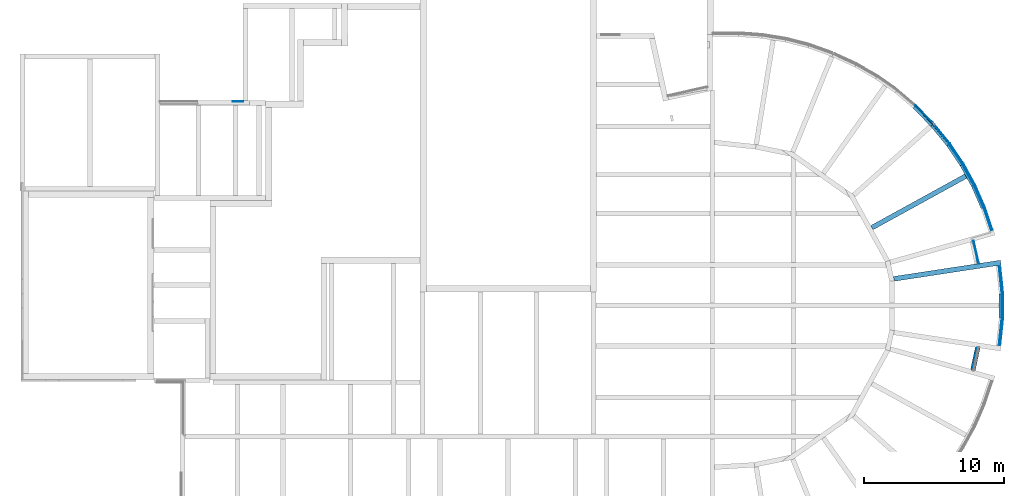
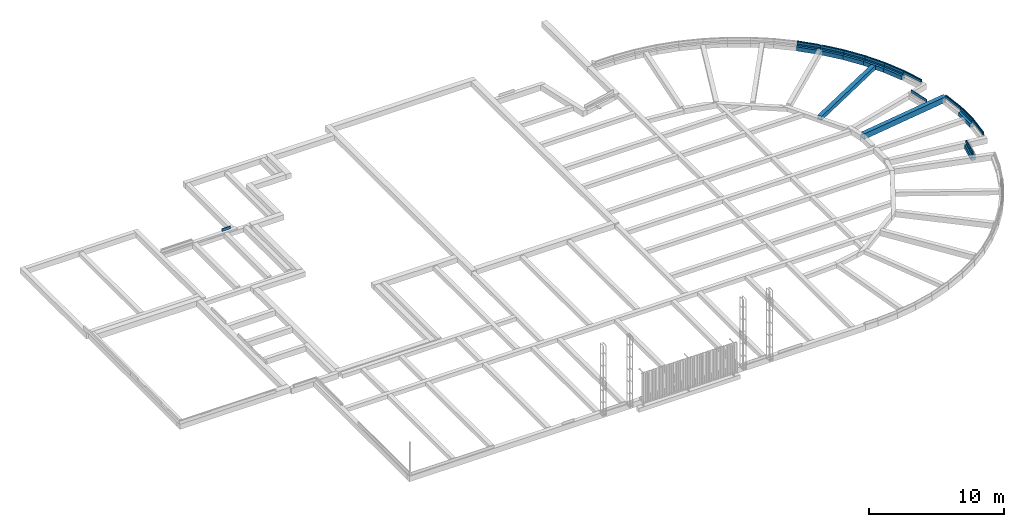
# One storey, part 7 of 11: 30 walls.
"""IFC2X3 building model written with IfcOpenShell, lengths in millimetres."""

from ifc_helpers import new_model, entity, si_unit, converted_unit, derived_unit, direction, frame, frame_2d, origin, place, context, subcontext, project, spatial, polyline, rectangle, outline, extrude, clip, bounded_halfspace, material, layer, layer_set, layer_usage, type_object, element, save


model = new_model("IFC2X3")

# Units and contexts
model_context = context("Model", 3, precision=0.01, world=origin(), true_north=direction((6.12303176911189e-17, 1.0)))
body_context = subcontext(model_context, "Body", "Model", "MODEL_VIEW")
ifc_project = project(units=[si_unit("LENGTHUNIT", "METRE", prefix="MILLI"), si_unit("AREAUNIT", "SQUARE_METRE"), si_unit("VOLUMEUNIT", "CUBIC_METRE"), converted_unit("PLANEANGLEUNIT", "DEGREE", entity("IfcRatioMeasure", 0.0174532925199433), si_unit("PLANEANGLEUNIT", "RADIAN"), dimensions=[0, 0, 0, 0, 0, 0, 0]), si_unit("MASSUNIT", "GRAM", prefix="KILO"), derived_unit("MASSDENSITYUNIT", [(si_unit("MASSUNIT", "GRAM", prefix="KILO"), 1), (si_unit("LENGTHUNIT", "METRE"), -3)]), derived_unit("MOMENTOFINERTIAUNIT", [(si_unit("LENGTHUNIT", "METRE"), 4)]), si_unit("TIMEUNIT", "SECOND"), si_unit("FREQUENCYUNIT", "HERTZ"), si_unit("THERMODYNAMICTEMPERATUREUNIT", "DEGREE_CELSIUS"), derived_unit("THERMALTRANSMITTANCEUNIT", [(si_unit("MASSUNIT", "GRAM", prefix="KILO"), 1), (si_unit("THERMODYNAMICTEMPERATUREUNIT", "KELVIN"), -1), (si_unit("TIMEUNIT", "SECOND"), -3)]), derived_unit("VOLUMETRICFLOWRATEUNIT", [(si_unit("LENGTHUNIT", "METRE"), 3), (si_unit("TIMEUNIT", "SECOND"), -1)]), si_unit("ELECTRICCURRENTUNIT", "AMPERE"), si_unit("ELECTRICVOLTAGEUNIT", "VOLT"), si_unit("POWERUNIT", "WATT"), si_unit("FORCEUNIT", "NEWTON", prefix="KILO"), si_unit("ILLUMINANCEUNIT", "LUX"), si_unit("LUMINOUSFLUXUNIT", "LUMEN"), si_unit("LUMINOUSINTENSITYUNIT", "CANDELA"), derived_unit("USERDEFINED", [(si_unit("MASSUNIT", "GRAM", prefix="KILO"), -1), (si_unit("LENGTHUNIT", "METRE"), -2), (si_unit("TIMEUNIT", "SECOND"), 3), (si_unit("LUMINOUSFLUXUNIT", "LUMEN"), 1)]), derived_unit("LINEARVELOCITYUNIT", [(si_unit("LENGTHUNIT", "METRE"), 1), (si_unit("TIMEUNIT", "SECOND"), -1)]), si_unit("PRESSUREUNIT", "PASCAL"), derived_unit("USERDEFINED", [(si_unit("LENGTHUNIT", "METRE"), -2), (si_unit("MASSUNIT", "GRAM", prefix="KILO"), 1), (si_unit("TIMEUNIT", "SECOND"), -2)]), derived_unit("LINEARFORCEUNIT", [(si_unit("MASSUNIT", "GRAM", prefix="KILO"), 1), (si_unit("LENGTHUNIT", "METRE"), 1), (si_unit("TIMEUNIT", "SECOND"), -2), (si_unit("LENGTHUNIT", "METRE"), -1)]), derived_unit("PLANARFORCEUNIT", [(si_unit("MASSUNIT", "GRAM", prefix="KILO"), 1), (si_unit("LENGTHUNIT", "METRE"), 1), (si_unit("TIMEUNIT", "SECOND"), -2), (si_unit("LENGTHUNIT", "METRE"), -2)])], contexts=[model_context])

# Site, building, storey
site_placement = place(None, origin())
site = spatial("IfcSite", under=ifc_project, at=site_placement, Name="Default", CompositionType="ELEMENT")
building_placement = place(site_placement, origin())
building = spatial("IfcBuilding", under=site, at=building_placement, Name="-", CompositionType="ELEMENT")
storey_placement = place(building_placement, frame((0.0, 0.0, -780.0)))
storey = spatial("IfcBuildingStorey", under=building, at=storey_placement, Name="ok. fundering", CompositionType="ELEMENT", Elevation=-780.0)

# Walls
ifc_material_1 = material(Name="NLRS_g2_baksteen  rood genuanceerd Klamp")
ifc_layer_1 = layer(ifc_material_1, 50.0)
ifc_layer_set_1 = layer_set([ifc_layer_1], Name="Basic Wall:NLRS_20_WA_Metselwerk klamp, Eems wf-p-0081-25")
ifc_layer_usage_1 = layer_usage(ifc_layer_set_1, "AXIS2", "NEGATIVE", 25.0)
wall_type_1 = type_object("IfcWallType", Name="Basic Wall:NLRS_20_WA_Metselwerk klamp, Eems wf-p-0081-25", PredefinedType="STANDARD", material=ifc_layer_set_1)
wall_1_placement = place(storey_placement, frame((69965.3788069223, 16790.7732787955, 500.0), z_axis=(0.0, 0.0, 1.0), x_axis=(0.104528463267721, 0.994521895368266, 0.0)))
element("IfcWallStandardCase", 1, at=wall_1_placement, inside=storey, type_object=wall_type_1, material=ifc_layer_usage_1, Name="Basic Wall:NLRS_20_WA_Metselwerk klamp, Eems wf-p-0081-25", ObjectType="Basic Wall:NLRS_20_WA_Metselwerk klamp, Eems wf-p-0081-25", context=body_context, shape_type="Clipping", body=[
    clip(clip(extrude(outline(polyline([(0.0, 25.0), (0.0, 4.90619364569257), (44.9614550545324, 2.8539697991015), (43.6900864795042, -25.0), (1979.74689828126, -25.0), (1977.1265093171, 25.0), (0.0, 25.0)])), origin(), (0.0, 0.0, 1.0), 240.0), bounded_halfspace(frame((44.9614550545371, 2.85396979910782, 0.0), z_axis=(0.0455965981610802, 0.998959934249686, 0.0), x_axis=(-0.998959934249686, 0.0455965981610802, 0.0)), True, frame((44.9614550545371, 2.85396979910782, 0.0), z_axis=(0.0455965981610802, 0.998959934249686, 0.0), x_axis=(-0.998959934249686, 0.0455965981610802, 0.0)), polyline([(0.0, 0.0), (45.0082666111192, 0.0), (45.0082666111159, 240.0), (0.0, 240.0), (0.0, 0.0)]))), bounded_halfspace(frame((44.9614550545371, 2.85396979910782, 240.0), z_axis=(0.998959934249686, -0.0455965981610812, 0.0), x_axis=(0.0455965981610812, 0.998959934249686, 0.0)), True, frame((44.9614550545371, 2.85396979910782, 240.0), z_axis=(0.998959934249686, -0.0455965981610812, 0.0), x_axis=(0.0455965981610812, 0.998959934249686, 0.0)), polyline([(0.0, 0.0), (-27.8829699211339, 0.0), (-27.8829699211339, -240.0), (0.0, -240.0), (0.0, 0.0)]))),
])
ifc_layer_usage_2 = layer_usage(ifc_layer_set_1, "AXIS2", "NEGATIVE", 25.0)
wall_2_placement = place(storey_placement, frame((70172.1817552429, 18757.0617048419, 500.0), z_axis=(0.0, 0.0, 1.0), x_axis=(0.0, 1.0, 0.0)))
element("IfcWallStandardCase", 2, at=wall_2_placement, inside=storey, type_object=wall_type_1, material=ifc_layer_usage_2, Name="Basic Wall:NLRS_20_WA_Metselwerk klamp, Eems wf-p-0081-25", ObjectType="Basic Wall:NLRS_20_WA_Metselwerk klamp, Eems wf-p-0081-25", context=body_context, shape_type="SweptSolid", body=[
    extrude(outline(polyline([(1717.99604824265, -25.0), (1715.3756592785, 25.0), (2.62038896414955, 25.0), (0.0, -25.0), (1717.99604824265, -25.0)])), origin(), (0.0, 0.0, 1.0), 239.99999999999),
])
ifc_layer_usage_3 = layer_usage(ifc_layer_set_1, "AXIS2", "NEGATIVE", 25.0)
wall_3_placement = place(storey_placement, frame((70172.3187078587, 20472.4445415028, 500.0), z_axis=(0.0, 0.0, 1.0), x_axis=(-0.104528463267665, 0.994521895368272, 0.0)))
element("IfcWallStandardCase", 3, at=wall_3_placement, inside=storey, type_object=wall_type_1, material=ifc_layer_usage_3, Name="Basic Wall:NLRS_20_WA_Metselwerk klamp, Eems wf-p-0081-25", ObjectType="Basic Wall:NLRS_20_WA_Metselwerk klamp, Eems wf-p-0081-25", context=body_context, shape_type="Clipping", body=[
    clip(clip(extrude(outline(polyline([(2.62038896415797, 25.0), (0.0, -25.0), (1941.66335280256, -25.0), (1940.36080874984, 3.03501851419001), (1980.56164081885, 4.90280236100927), (1980.56164081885, 25.0), (2.62038896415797, 25.0)])), origin(), (0.0, 0.0, 1.0), 240.0), bounded_halfspace(frame((1940.36080874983, 3.03501851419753, 240.0), z_axis=(-0.0464112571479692, 0.998922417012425, 0.0), x_axis=(-0.998922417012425, -0.0464112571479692, 0.0)), True, frame((1940.36080874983, 3.03501851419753, 240.0), z_axis=(-0.0464112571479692, 0.998922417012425, 0.0), x_axis=(-0.998922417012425, -0.0464112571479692, 0.0)), polyline([(0.0, 0.0), (-40.2441985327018, 0.0), (-40.2441985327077, -240.0), (0.0, -240.0), (0.0, 0.0)]))), bounded_halfspace(frame((1940.36080874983, 3.03501851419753, 0.0), z_axis=(-0.998922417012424, -0.0464112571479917, 0.0), x_axis=(0.0464112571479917, -0.998922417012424, 0.0)), True, frame((1940.36080874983, 3.03501851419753, 0.0), z_axis=(-0.998922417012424, -0.0464112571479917, 0.0), x_axis=(0.0464112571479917, -0.998922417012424, 0.0)), polyline([(0.0, 0.0), (28.0652611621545, 0.0), (28.0652611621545, 240.0), (0.0, 240.0), (0.0, 0.0)]))),
])
ifc_layer_usage_4 = layer_usage(ifc_layer_set_1, "AXIS2", "NEGATIVE", 25.0)
wall_4_placement = place(storey_placement, frame((69403.4225875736, 25042.725923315, 500.0), z_axis=(0.0, 0.0, 1.0), x_axis=(-0.315556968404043, 0.948906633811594, 0.0)))
element("IfcWallStandardCase", 4, at=wall_4_placement, inside=storey, type_object=wall_type_1, material=ifc_layer_usage_4, Name="Basic Wall:NLRS_20_WA_Metselwerk klamp, Eems wf-p-0081-25", ObjectType="Basic Wall:NLRS_20_WA_Metselwerk klamp, Eems wf-p-0081-25", context=body_context, shape_type="SweptSolid", body=[
    extrude(outline(polyline([(1716.91578786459, -25.0), (1714.64530115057, 25.0), (0.0, 25.0), (0.0, -25.0), (1716.91578786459, -25.0)])), origin(), (0.0, 0.0, 1.0), 239.99999999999),
])
ifc_layer_usage_5 = layer_usage(ifc_layer_set_1, "AXIS2", "NEGATIVE", 25.0)
wall_5_placement = place(storey_placement, frame((68862.4504731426, 26669.8011253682, 500.0), z_axis=(0.0, 0.0, 1.0), x_axis=(-0.400260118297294, 0.916401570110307, 0.0)))
element("IfcWallStandardCase", 5, at=wall_5_placement, inside=storey, type_object=wall_type_1, material=ifc_layer_usage_5, Name="Basic Wall:NLRS_20_WA_Metselwerk klamp, Eems wf-p-0081-25", ObjectType="Basic Wall:NLRS_20_WA_Metselwerk klamp, Eems wf-p-0081-25", context=body_context, shape_type="SweptSolid", body=[
    extrude(outline(polyline([(1735.82446358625, -25.0), (1733.55261613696, 25.0), (2.27048671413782, 25.0), (0.0, -25.0), (1735.82446358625, -25.0)])), origin(), (0.0, 0.0, 1.0), 239.99999999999),
])
ifc_layer_usage_6 = layer_usage(ifc_layer_set_1, "AXIS2", "NEGATIVE", 25.0)
wall_6_placement = place(storey_placement, frame((68168.6710258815, 28258.4769860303, 500.0), z_axis=(0.0, 0.0, 1.0), x_axis=(-0.481716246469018, 0.876327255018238, 0.0)))
element("IfcWallStandardCase", 6, at=wall_6_placement, inside=storey, type_object=wall_type_1, material=ifc_layer_usage_6, Name="Basic Wall:NLRS_20_WA_Metselwerk klamp, Eems wf-p-0081-25", ObjectType="Basic Wall:NLRS_20_WA_Metselwerk klamp, Eems wf-p-0081-25", context=body_context, shape_type="SweptSolid", body=[
    extrude(outline(polyline([(1733.38433557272, -25.0), (1731.11384885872, 25.0), (2.27184744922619, 25.0), (0.0, -25.0), (1733.38433557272, -25.0)])), origin(), (0.0, 0.0, 1.0), 239.99999999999),
])
ifc_layer_usage_7 = layer_usage(ifc_layer_set_1, "AXIS2", "NEGATIVE", 25.0)
wall_7_placement = place(storey_placement, frame((67334.8532750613, 29775.5528915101, 500.0), z_axis=(0.0, 0.0, 1.0), x_axis=(-0.559157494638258, 0.829061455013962, 0.0)))
element("IfcWallStandardCase", 7, at=wall_7_placement, inside=storey, type_object=wall_type_1, material=ifc_layer_usage_7, Name="Basic Wall:NLRS_20_WA_Metselwerk klamp, Eems wf-p-0081-25", ObjectType="Basic Wall:NLRS_20_WA_Metselwerk klamp, Eems wf-p-0081-25", context=body_context, shape_type="SweptSolid", body=[
    extrude(outline(polyline([(1733.38823576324, -25.0), (1731.11774904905, 25.0), (2.27048671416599, 25.0), (0.0, -25.0), (1733.38823576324, -25.0)])), origin(), (0.0, 0.0, 1.0), 239.99999999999),
])
ifc_layer_usage_8 = layer_usage(ifc_layer_set_1, "AXIS2", "NEGATIVE", 25.0)
wall_8_placement = place(storey_placement, frame((66366.9685012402, 31210.8172966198, 500.0), z_axis=(0.0, 0.0, 1.0), x_axis=(-0.631996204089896, 0.774971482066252, 0.0)))
element("IfcWallStandardCase", 8, at=wall_8_placement, inside=storey, type_object=wall_type_1, material=ifc_layer_usage_8, Name="Basic Wall:NLRS_20_WA_Metselwerk klamp, Eems wf-p-0081-25", ObjectType="Basic Wall:NLRS_20_WA_Metselwerk klamp, Eems wf-p-0081-25", context=body_context, shape_type="SweptSolid", body=[
    extrude(outline(polyline([(1721.34834029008, -25.0), (1720.21662877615, 25.0), (2.27048671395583, 25.0), (0.0, -25.0), (1721.34834029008, -25.0)])), origin(), (0.0, 0.0, 1.0), 239.99999999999),
])
ifc_layer_usage_9 = layer_usage(ifc_layer_set_1, "AXIS2", "NEGATIVE", 25.0)
wall_9_placement = place(storey_placement, frame((65128.5800320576, 32713.1960617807, 500.0), z_axis=(0.0, 0.0, 1.0), x_axis=(-0.699555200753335, 0.714578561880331, 0.0)))
element("IfcWallStandardCase", 9, at=wall_9_placement, inside=storey, type_object=wall_type_1, material=ifc_layer_usage_9, Name="Basic Wall:NLRS_20_WA_Metselwerk klamp, Eems wf-p-0081-25", ObjectType="Basic Wall:NLRS_20_WA_Metselwerk klamp, Eems wf-p-0081-25", context=body_context, shape_type="SweptSolid", body=[
    extrude(outline(polyline([(1721.66808390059, -25.0), (1719.39759718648, 25.0), (1.13488868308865, 25.0), (0.0, -25.0), (1721.66808390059, -25.0)])), origin(), (0.0, 0.0, 1.0), 239.99999999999),
])
ifc_layer_usage_10 = layer_usage(ifc_layer_set_1, "AXIS2", "NEGATIVE", 25.0)
wall_10_placement = place(storey_placement, frame((68436.6212436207, 22602.1285748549, 500.0), z_axis=(0.0, 0.0, 1.0), x_axis=(-0.215826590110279, 0.976431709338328, 0.0)))
element("IfcWallStandardCase", 10, at=wall_10_placement, inside=storey, type_object=wall_type_1, material=ifc_layer_usage_10, Name="Basic Wall:NLRS_20_WA_Metselwerk klamp, Eems wf-p-0081-25", ObjectType="Basic Wall:NLRS_20_WA_Metselwerk klamp, Eems wf-p-0081-25", context=body_context, shape_type="SweptSolid", body=[
    extrude(outline(polyline([(1703.68405420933, -25.0), (1702.37975986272, -2.70780514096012), (1700.75860349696, 25.0), (3.32441590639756, 25.0), (2.02260606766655, 5.42047271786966), (0.0, -25.0), (1703.68405420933, -25.0)])), origin(), (0.0, 0.0, 1.0), 239.99999999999),
])
ifc_layer_usage_11 = layer_usage(ifc_layer_set_1, "AXIS2", "NEGATIVE", 25.0)
wall_11_placement = place(storey_placement, frame((15795.0, 34222.1133714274, 500.0), z_axis=(0.0, 0.0, 1.0), x_axis=(-1.0, 0.0, 0.0)))
element("IfcWallStandardCase", 11, at=wall_11_placement, inside=storey, type_object=wall_type_1, material=ifc_layer_usage_11, Name="Basic Wall:NLRS_20_WA_Metselwerk klamp, Eems wf-p-0081-25", ObjectType="Basic Wall:NLRS_20_WA_Metselwerk klamp, Eems wf-p-0081-25", context=body_context, shape_type="SweptSolid", body=[
    extrude(rectangle(XDim=741.0, YDim=49.9999999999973, at=frame_2d((370.5, 0.0), x_axis=(-1.0, 0.0))), origin(), (0.0, 0.0, 1.0), 239.99999999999),
])
ifc_material_2 = material(Name="NLRS_f2_beton")
ifc_layer_2 = layer(ifc_material_2, 350.0)
ifc_layer_set_2 = layer_set([ifc_layer_2], Name="Basic Wall:NLRS_16_WA_funderingsbalk 350x...mm_gen_aly")
ifc_layer_usage_12 = layer_usage(ifc_layer_set_2, "AXIS2", "NEGATIVE", 175.0)
wall_type_2 = type_object("IfcWallType", Name="Basic Wall:NLRS_16_WA_funderingsbalk 350x...mm_gen_aly", PredefinedType="STANDARD", material=ifc_layer_set_2)
wall_12_placement = place(storey_placement, frame((70072.1817552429, 20477.6781420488, 0.0), z_axis=(0.0, 0.0, 1.0), x_axis=(0.0, -1.0, 0.0)))
element("IfcWallStandardCase", 12, at=wall_12_placement, inside=storey, type_object=wall_type_2, material=ifc_layer_usage_12, Name="Basic Wall:NLRS_16_WA_funderingsbalk 350x...mm_gen_aly", ObjectType="Basic Wall:NLRS_16_WA_funderingsbalk 350x...mm_gen_aly", context=body_context, shape_type="Clipping", body=[
    clip(clip(extrude(outline(polyline([(1704.89410342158, -175.0), (1723.23682617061, 175.0), (0.0, 175.0), (18.3427227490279, -175.0), (686.61841308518, -175.0), (1036.61841308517, -175.0), (1704.89410342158, -175.0)])), origin(), (0.0, 0.0, 1.0), 499.999999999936), bounded_halfspace(frame((1714.64195036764, 11.0, 370.0), z_axis=(0.0, 0.0, -1.0), x_axis=(-1.0, 0.0, 0.0)), True, frame((1714.64195036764, 11.0, 370.0), z_axis=(0.0, 0.0, -1.0), x_axis=(-1.0, 0.0, 0.0)), polyline([(0.0, 0.0), (9.74784694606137, -186.0), (678.023537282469, -186.0), (1028.02353728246, -186.0), (1696.29922761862, -186.0), (1706.04707456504, 0.0), (0.0, 0.0)]))), bounded_halfspace(frame((8.59487580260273, 11.0, 370.0), z_axis=(0.0, 1.0, 0.0), x_axis=(0.0, 0.0, 1.0)), True, frame((8.59487580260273, 11.0, 370.0), z_axis=(0.0, 1.0, 0.0), x_axis=(0.0, 0.0, 1.0)), polyline([(0.0, 0.0), (130.0, 0.0), (130.0, 1706.0470745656), (0.0, 1706.04707456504), (0.0, 0.0)]))),
])
ifc_layer_usage_13 = layer_usage(ifc_layer_set_2, "AXIS2", "NEGATIVE", 175.0)
wall_13_placement = place(storey_placement, frame((68075.1196810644, 28222.5693019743, 0.0), z_axis=(0.0, 0.0, 1.0), x_axis=(0.400260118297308, -0.916401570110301, 0.0)))
element("IfcWallStandardCase", 13, at=wall_13_placement, inside=storey, type_object=wall_type_2, material=ifc_layer_usage_13, Name="Basic Wall:NLRS_16_WA_funderingsbalk 350x...mm_gen_aly", ObjectType="Basic Wall:NLRS_16_WA_funderingsbalk 350x...mm_gen_aly", context=body_context, shape_type="Clipping", body=[
    clip(clip(extrude(outline(polyline([(1724.47339075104, -175.0), (1740.36679774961, 175.0), (0.0, 175.0), (15.9029321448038, -175.0), (1724.47339075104, -175.0)])), origin(), (0.0, 0.0, 1.0), 499.999999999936), bounded_halfspace(frame((1732.91960132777, 11.0, 370.0), z_axis=(0.0, 0.0, -1.0), x_axis=(-0.916401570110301, 0.400260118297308, 0.0)), True, frame((1732.91960132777, 11.0, 370.0), z_axis=(0.0, 0.0, -1.0), x_axis=(-0.916401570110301, 0.400260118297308, 0.0)), polyline([(0.0, 0.0), (-66.7082613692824, -173.831373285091), (1499.02838954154, -857.703987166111), (1581.22153094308, -690.636002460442), (0.0, 0.0)]))), bounded_halfspace(frame((7.45165963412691, 11.0, 370.0), z_axis=(0.0, 1.0, 0.0), x_axis=(0.0, 0.0, 1.0)), True, frame((7.45165963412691, 11.0, 370.0), z_axis=(0.0, 1.0, 0.0), x_axis=(0.0, 0.0, 1.0)), polyline([(0.0, 0.0), (130.0, 0.0), (130.0, 1725.46794169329), (0.0, 1725.46794169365), (0.0, 0.0)]))),
])
ifc_layer_usage_14 = layer_usage(ifc_layer_set_2, "AXIS2", "NEGATIVE", 175.0)
wall_14_placement = place(storey_placement, frame((67244.9451742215, 29731.3069874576, 0.0), z_axis=(0.0, 0.0, 1.0), x_axis=(0.48171624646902, -0.876327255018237, 0.0)))
element("IfcWallStandardCase", 14, at=wall_14_placement, inside=storey, type_object=wall_type_2, material=ifc_layer_usage_14, Name="Basic Wall:NLRS_16_WA_funderingsbalk 350x...mm_gen_aly", ObjectType="Basic Wall:NLRS_16_WA_funderingsbalk 350x...mm_gen_aly", context=body_context, shape_type="Clipping", body=[
    clip(clip(extrude(outline(polyline([(1722.02373759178, -175.0), (1737.92666973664, 175.0), (0.0, 175.0), (15.8934069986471, -175.0), (690.575244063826, -175.0), (1040.57524406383, -175.0), (1722.02373759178, -175.0)])), origin(), (0.0, 0.0, 1.0), 499.999999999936), bounded_halfspace(frame((1730.47501010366, 11.0, 370.0), z_axis=(0.0, 0.0, -1.0), x_axis=(-0.876327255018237, 0.48171624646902, 0.0)), True, frame((1730.47501010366, 11.0, 370.0), z_axis=(0.0, 0.0, -1.0), x_axis=(-0.876327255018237, 0.48171624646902, 0.0)), polyline([(0.0, 0.0), (-82.1931414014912, -167.06798470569), (514.978746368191, -495.332795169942), (821.693285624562, -663.9334814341), (1412.93536791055, -988.938683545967), (1509.93623428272, -830.01049096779), (0.0, 0.0)]))), bounded_halfspace(frame((7.4471964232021, 11.0, 370.0), z_axis=(0.0, 1.0, 0.0), x_axis=(0.0, 0.0, 1.0)), True, frame((7.4471964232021, 11.0, 370.0), z_axis=(0.0, 1.0, 0.0), x_axis=(0.0, 0.0, 1.0)), polyline([(0.0, 0.0), (130.0, 0.0), (130.0, 1723.02781367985), (0.0, 1723.02781368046), (0.0, 0.0)]))),
])
ifc_layer_usage_15 = layer_usage(ifc_layer_set_2, "AXIS2", "NEGATIVE", 175.0)
wall_15_placement = place(storey_placement, frame((66281.4405467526, 31158.6048879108, 0.0), z_axis=(0.0, 0.0, 1.0), x_axis=(0.559157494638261, -0.829061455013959, 0.0)))
element("IfcWallStandardCase", 15, at=wall_15_placement, inside=storey, type_object=wall_type_2, material=ifc_layer_usage_15, Name="Basic Wall:NLRS_16_WA_funderingsbalk 350x...mm_gen_aly", ObjectType="Basic Wall:NLRS_16_WA_funderingsbalk 350x...mm_gen_aly", context=body_context, shape_type="Clipping", body=[
    clip(clip(extrude(outline(polyline([(1722.03580219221, -175.0), (1737.92920919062, 175.0), (0.0, 175.0), (15.8934069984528, -175.0), (1722.03580219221, -175.0)])), origin(), (0.0, 0.0, 1.0), 499.999999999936), bounded_halfspace(frame((1730.4820127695, 11.0, 370.0), z_axis=(0.0, 0.0, -1.0), x_axis=(-0.829061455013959, 0.559157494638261, 0.0)), True, frame((1730.4820127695, 11.0, 370.0), z_axis=(0.0, 0.0, -1.0), x_axis=(-0.829061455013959, 0.559157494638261, 0.0)), polyline([(0.0, 0.0), (-97.0008663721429, -158.928192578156), (1317.49603024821, -1112.93049977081), (1428.50175188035, -963.447831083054), (0.0, 0.0)]))), bounded_halfspace(frame((7.4471964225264, 11.0, 370.0), z_axis=(0.0, 1.0, 0.0), x_axis=(0.0, 0.0, 1.0)), True, frame((7.4471964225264, 11.0, 370.0), z_axis=(0.0, 1.0, 0.0), x_axis=(0.0, 0.0, 1.0)), polyline([(0.0, 0.0), (130.0, 0.0), (130.0, 1723.03481634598), (0.0, 1723.03481634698), (0.0, 0.0)]))),
])
ifc_layer_usage_16 = layer_usage(ifc_layer_set_2, "AXIS2", "NEGATIVE", 175.0)
wall_16_placement = place(storey_placement, frame((65127.8963523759, 32571.9735409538, 0.0), z_axis=(0.0, 0.0, 1.0), x_axis=(0.631996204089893, -0.774971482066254, 0.0)))
element("IfcWallStandardCase", 16, at=wall_16_placement, inside=storey, type_object=wall_type_2, material=ifc_layer_usage_16, Name="Basic Wall:NLRS_16_WA_funderingsbalk 350x...mm_gen_aly", ObjectType="Basic Wall:NLRS_16_WA_funderingsbalk 350x...mm_gen_aly", context=body_context, shape_type="Clipping", body=[
    clip(clip(extrude(outline(polyline([(1824.32324638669, -175.0), (1840.21665338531, 175.0), (0.0, 175.0), (15.8743567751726, -175.0), (184.971785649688, -175.0), (1824.32324638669, -175.0)])), origin(), (0.0, 0.0, 1.0), 499.999999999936), bounded_halfspace(frame((1832.76945696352, 11.0, 370.0), z_axis=(0.0, 0.0, -1.0), x_axis=(-0.774971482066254, 0.631996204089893, 0.0)), True, frame((1832.76945696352, 11.0, 370.0), z_axis=(0.0, 0.0, -1.0), x_axis=(-0.774971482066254, 0.631996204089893, 0.0)), polyline([(0.0, 0.0), (-111.005721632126, -149.482668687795), (1290.4905945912, -1292.41550221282), (1414.57961519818, -1153.60238134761), (0.0, 0.0)]))), bounded_halfspace(frame((7.43827003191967, 11.0, 370.0), z_axis=(0.0, 1.0, 0.0), x_axis=(0.0, 0.0, 1.0)), True, frame((7.43827003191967, 11.0, 370.0), z_axis=(0.0, 1.0, 0.0), x_axis=(0.0, 0.0, 1.0)), polyline([(0.0, 0.0), (130.0, 0.0), (130.0, 1825.33118693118), (0.0, 1825.3311869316), (0.0, 0.0)]))),
])
ifc_layer_usage_17 = layer_usage(ifc_layer_set_2, "AXIS2", "NEGATIVE", 175.0)
wall_17_placement = place(storey_placement, frame((63851.1319830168, 33875.1300862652, 0.0), z_axis=(0.0, 0.0, 1.0), x_axis=(0.699555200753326, -0.714578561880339, 0.0)))
element("IfcWallStandardCase", 17, at=wall_17_placement, inside=storey, type_object=wall_type_2, material=ifc_layer_usage_17, Name="Basic Wall:NLRS_16_WA_funderingsbalk 350x...mm_gen_aly", ObjectType="Basic Wall:NLRS_16_WA_funderingsbalk 350x...mm_gen_aly", context=body_context, shape_type="Clipping", body=[
    clip(clip(extrude(outline(polyline([(1824.3422966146, -175.0), (1840.21665338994, 175.0), (0.0, 175.0), (15.8934069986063, -175.0), (1643.08007400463, -175.0), (1824.3422966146, -175.0)])), origin(), (0.0, 0.0, 1.0), 499.999999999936), bounded_halfspace(frame((1832.77838335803, 11.0, 370.0), z_axis=(0.0, 0.0, -1.0), x_axis=(-0.714578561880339, 0.699555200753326, 0.0)), True, frame((1832.77838335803, 11.0, 370.0), z_axis=(0.0, 0.0, -1.0), x_axis=(-0.714578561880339, 0.699555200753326, 0.0)), polyline([(0.0, 0.0), (-124.089020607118, -138.813120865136), (1168.18978616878, -1403.92294689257), (1304.34253451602, -1276.91992491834), (0.0, 0.0)]))), bounded_halfspace(frame((7.44719642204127, 11.0, 370.0), z_axis=(0.0, 1.0, 0.0), x_axis=(0.0, 0.0, 1.0)), True, frame((7.44719642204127, 11.0, 370.0), z_axis=(0.0, 1.0, 0.0), x_axis=(0.0, 0.0, 1.0)), polyline([(0.0, 0.0), (130.0, 0.0), (130.0, 1825.33118693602), (0.0, 1825.33118693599), (0.0, 0.0)]))),
])
ifc_layer_usage_18 = layer_usage(ifc_layer_set_2, "AXIS2", "NEGATIVE", 175.0)
wall_18_placement = place(storey_placement, frame((68369.1818805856, 16618.8846806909, 0.0), z_axis=(0.0, 0.0, 1.0), x_axis=(-0.211580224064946, -0.977360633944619, 0.0)))
element("IfcWallStandardCase", 18, at=wall_18_placement, inside=storey, type_object=wall_type_2, material=ifc_layer_usage_18, Name="Basic Wall:NLRS_16_WA_funderingsbalk 350x...mm_gen_aly", ObjectType="Basic Wall:NLRS_16_WA_funderingsbalk 350x...mm_gen_aly", context=body_context, shape_type="Clipping", body=[
    clip(clip(extrude(outline(polyline([(1625.57877455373, -175.0), (1647.44304931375, 175.0), (0.0, 175.0), (22.0297913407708, -175.0), (1625.57877455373, -175.0)])), origin(), (0.0, 0.0, 1.0), 499.999999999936), bounded_halfspace(frame((1633.3187818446, -51.0991351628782, 370.0), z_axis=(0.0, 0.0, -1.0), x_axis=(-0.977360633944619, -0.211580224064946, 0.0)), True, frame((1633.3187818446, -51.0991351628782, 370.0), z_axis=(0.0, 0.0, -1.0), x_axis=(-0.977360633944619, -0.211580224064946, 0.0)), polyline([(0.0, 0.0), (33.7797511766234, -119.458195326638), (1601.02540197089, 219.82105784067), (1582.43247442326, 342.566915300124), (0.0, 0.0)]))), bounded_halfspace(frame((14.2311907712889, -51.0991351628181, 370.0), z_axis=(0.0, 1.0, 0.0), x_axis=(0.0, 0.0, 1.0)), True, frame((14.2311907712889, -51.0991351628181, 370.0), z_axis=(0.0, 1.0, 0.0), x_axis=(0.0, 0.0, 1.0)), polyline([(0.0, 0.0), (130.0, 0.0), (130.0, 1619.08759107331), (0.0, 1619.08759107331), (0.0, 0.0)]))),
])
ifc_layer_usage_19 = layer_usage(ifc_layer_set_2, "AXIS2", "NEGATIVE", 175.0)
wall_19_placement = place(storey_placement, frame((62357.6216327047, 21531.2625275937, 0.0), z_axis=(0.0, 0.0, 1.0), x_axis=(0.988598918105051, 0.150572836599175, 0.0)))
element("IfcWallStandardCase", 19, at=wall_19_placement, inside=storey, type_object=wall_type_2, material=ifc_layer_usage_19, Name="Basic Wall:NLRS_16_WA_funderingsbalk 350x...mm_gen_aly", ObjectType="Basic Wall:NLRS_16_WA_funderingsbalk 350x...mm_gen_aly", context=body_context, shape_type="SweptSolid", body=[
    extrude(outline(polyline([(7736.42540033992, -175.0), (7752.68686341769, 175.0), (6243.99533944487, 175.0), (5893.22257066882, 175.0), (0.0, 175.0), (20.9742784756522, -140.458099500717), (15.7132248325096, -175.0), (7386.04783944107, -175.0), (7736.42540033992, -175.0)])), origin(), (0.0, 0.0, 1.0), 499.999999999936),
])
ifc_layer_usage_20 = layer_usage(ifc_layer_set_2, "AXIS2", "NEGATIVE", 175.0)
wall_20_placement = place(storey_placement, frame((67508.5495622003, 28888.4794666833, 0.0), z_axis=(0.0, 0.0, 1.0), x_axis=(-0.876327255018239, -0.481716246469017, 0.0)))
element("IfcWallStandardCase", 20, at=wall_20_placement, inside=storey, type_object=wall_type_2, material=ifc_layer_usage_20, Name="Basic Wall:NLRS_16_WA_funderingsbalk 350x...mm_gen_aly", ObjectType="Basic Wall:NLRS_16_WA_funderingsbalk 350x...mm_gen_aly", context=body_context, shape_type="Clipping", body=[
    clip(extrude(outline(polyline([(7662.54715547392, -175.0), (7662.45567699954, 175.0), (0.0, 175.0), (0.0, -175.0), (7662.54715547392, -175.0)])), origin(), (0.0, 0.0, 1.0), 369.999999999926), bounded_halfspace(frame((0.0, -175.0, 370.0), z_axis=(0.0, 0.0, -1.0), x_axis=(-0.481716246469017, -0.876327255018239, 0.0)), True, frame((0.0, -175.0, 370.0), z_axis=(0.0, 0.0, -1.0), x_axis=(-0.481716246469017, -0.876327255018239, 0.0)), polyline([(0.0, 0.0), (-306.714539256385, 168.600686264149), (-3997.8439267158, -6546.21806385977), (-3691.17345412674, -6714.89891520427), (0.0, 0.0)]))),
])
ifc_material_3 = material(Name="NLRS_n7_isolatie PIR_gen")
ifc_layer_3 = layer(ifc_material_3, 60.0)
ifc_layer_set_3 = layer_set([ifc_layer_3], Name="Basic Wall:NLRS_22_WA_LB_isolatie PIR 60mm")
ifc_layer_usage_21 = layer_usage(ifc_layer_set_3, "AXIS2", "NEGATIVE", 30.0)
wall_type_3 = type_object("IfcWallType", Name="Basic Wall:NLRS_22_WA_LB_isolatie PIR 60mm", PredefinedType="STANDARD", material=ifc_layer_set_3)
wall_21_placement = place(storey_placement, frame((68002.5859442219, 15025.1757076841, 500.0), z_axis=(0.0, 0.0, 1.0), x_axis=(0.211580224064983, 0.977360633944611, 0.0)))
element("IfcWallStandardCase", 21, at=wall_21_placement, inside=storey, type_object=wall_type_3, material=ifc_layer_usage_21, Name="Basic Wall:NLRS_22_WA_LB_isolatie PIR 60mm", ObjectType="Basic Wall:NLRS_22_WA_LB_isolatie PIR 60mm", context=body_context, shape_type="SweptSolid", body=[
    extrude(rectangle(XDim=1622.8499395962, YDim=59.9999999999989, at=frame_2d((811.424969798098, 3.5171865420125e-13), x_axis=(-1.0, 0.0))), origin(), (0.0, 0.0, 1.0), 212.0),
])
ifc_layer_usage_22 = layer_usage(ifc_layer_set_3, "AXIS2", "NEGATIVE", 30.0)
wall_22_placement = place(storey_placement, frame((69908.0298831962, 16809.5742791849, 500.0), z_axis=(0.0, 0.0, 1.0), x_axis=(0.104528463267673, 0.994521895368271, 0.0)))
element("IfcWallStandardCase", 22, at=wall_22_placement, inside=storey, type_object=wall_type_3, material=ifc_layer_usage_22, Name="Basic Wall:NLRS_22_WA_LB_isolatie PIR 60mm", ObjectType="Basic Wall:NLRS_22_WA_LB_isolatie PIR 60mm", context=body_context, shape_type="SweptSolid", body=[
    extrude(outline(polyline([(1964.21346652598, -30.0), (1961.06899976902, 30.0), (0.0, 30.0), (0.0, -30.0), (1964.21346652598, -30.0)])), origin(), (0.0, 0.0, 1.0), 201.99999999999),
])
ifc_layer_usage_23 = layer_usage(ifc_layer_set_3, "AXIS2", "NEGATIVE", 30.0)
wall_23_placement = place(storey_placement, frame((70113.1817552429, 18759.8917249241, 500.0), z_axis=(0.0, 0.0, 1.0), x_axis=(0.0, 1.0, 0.0)))
element("IfcWallStandardCase", 23, at=wall_23_placement, inside=storey, type_object=wall_type_3, material=ifc_layer_usage_23, Name="Basic Wall:NLRS_22_WA_LB_isolatie PIR 60mm", ObjectType="Basic Wall:NLRS_22_WA_LB_isolatie PIR 60mm", context=body_context, shape_type="SweptSolid", body=[
    extrude(outline(polyline([(1712.33600807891, -30.0), (1709.19154132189, 30.0), (3.14446675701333, 30.0), (0.0, -30.0), (1712.33600807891, -30.0)])), origin(), (0.0, 0.0, 1.0), 201.99999999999),
])
ifc_layer_usage_24 = layer_usage(ifc_layer_set_3, "AXIS2", "NEGATIVE", 30.0)
wall_24_placement = place(storey_placement, frame((70113.3460983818, 20469.091879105, 500.0), z_axis=(0.0, 0.0, 1.0), x_axis=(-0.104528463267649, 0.994521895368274, 0.0)))
element("IfcWallStandardCase", 24, at=wall_24_placement, inside=storey, type_object=wall_type_3, material=ifc_layer_usage_24, Name="Basic Wall:NLRS_22_WA_LB_isolatie PIR 60mm", ObjectType="Basic Wall:NLRS_22_WA_LB_isolatie PIR 60mm", context=body_context, shape_type="SweptSolid", body=[
    extrude(outline(polyline([(1964.97961522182, -30.0), (1964.97961522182, 30.0), (3.14446675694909, 30.0), (0.0, -30.0), (1964.97961522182, -30.0)])), origin(), (0.0, 0.0, 1.0), 201.99999999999),
])
ifc_layer_usage_25 = layer_usage(ifc_layer_set_3, "AXIS2", "NEGATIVE", 30.0)
wall_25_placement = place(storey_placement, frame((69345.4705685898, 25030.0215784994, 500.0), z_axis=(0.0, 0.0, 1.0), x_axis=(-0.315556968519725, 0.948906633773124, 0.0)))
element("IfcWallStandardCase", 25, at=wall_25_placement, inside=storey, type_object=wall_type_3, material=ifc_layer_usage_25, Name="Basic Wall:NLRS_22_WA_LB_isolatie PIR 60mm", ObjectType="Basic Wall:NLRS_22_WA_LB_isolatie PIR 60mm", context=body_context, shape_type="SweptSolid", body=[
    extrude(outline(polyline([(1708.23173586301, -30.0), (1705.50715180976, 30.0), (0.0, 30.0), (0.0, -30.0), (1708.23173586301, -30.0)])), origin(), (0.0, 0.0, 1.0), 202.0),
])
ifc_layer_usage_26 = layer_usage(ifc_layer_set_3, "AXIS2", "NEGATIVE", 30.0)
wall_26_placement = place(storey_placement, frame((68807.4012924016, 26648.4329101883, 500.0), z_axis=(0.0, 0.0, 1.0), x_axis=(-0.400260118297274, 0.916401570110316, 0.0)))
element("IfcWallStandardCase", 26, at=wall_26_placement, inside=storey, type_object=wall_type_3, material=ifc_layer_usage_26, Name="Basic Wall:NLRS_22_WA_LB_isolatie PIR 60mm", ObjectType="Basic Wall:NLRS_22_WA_LB_isolatie PIR 60mm", context=body_context, shape_type="SweptSolid", body=[
    extrude(outline(polyline([(1730.91874268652, -30.0), (1728.19252574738, 30.0), (2.72458405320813, 30.0), (0.0, -30.0), (1730.91874268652, -30.0)])), origin(), (0.0, 0.0, 1.0), 201.99999999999),
])
ifc_layer_usage_27 = layer_usage(ifc_layer_set_3, "AXIS2", "NEGATIVE", 30.0)
wall_27_placement = place(storey_placement, frame((68115.7857811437, 28232.2058798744, 500.0), z_axis=(0.0, 0.0, 1.0), x_axis=(-0.481716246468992, 0.876327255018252, 0.0)))
element("IfcWallStandardCase", 27, at=wall_27_placement, inside=storey, type_object=wall_type_3, material=ifc_layer_usage_27, Name="Basic Wall:NLRS_22_WA_LB_isolatie PIR 60mm", ObjectType="Basic Wall:NLRS_22_WA_LB_isolatie PIR 60mm", context=body_context, shape_type="SweptSolid", body=[
    extrude(outline(polyline([(1728.47861467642, -30.0), (1725.75403061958, 30.0), (2.72621693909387, 30.0), (0.0, -30.0), (1728.47861467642, -30.0)])), origin(), (0.0, 0.0, 1.0), 201.99999999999),
])
ifc_layer_usage_28 = layer_usage(ifc_layer_set_3, "AXIS2", "NEGATIVE", 30.0)
wall_28_placement = place(storey_placement, frame((67284.5675247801, 29744.5955621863, 500.0), z_axis=(0.0, 0.0, 1.0), x_axis=(-0.559157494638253, 0.829061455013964, 0.0)))
element("IfcWallStandardCase", 28, at=wall_28_placement, inside=storey, type_object=wall_type_3, material=ifc_layer_usage_28, Name="Basic Wall:NLRS_22_WA_LB_isolatie PIR 60mm", ObjectType="Basic Wall:NLRS_22_WA_LB_isolatie PIR 60mm", context=body_context, shape_type="SweptSolid", body=[
    extrude(outline(polyline([(1728.48398446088, -30.0), (1725.75940040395, 30.0), (2.72458405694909, 30.0), (0.0, -30.0), (1728.48398446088, -30.0)])), origin(), (0.0, 0.0, 1.0), 201.99999999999),
])
ifc_layer_usage_29 = layer_usage(ifc_layer_set_3, "AXIS2", "NEGATIVE", 30.0)
wall_29_placement = place(storey_placement, frame((66319.695449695, 31175.4298480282, 500.0), z_axis=(0.0, 0.0, 1.0), x_axis=(-0.63199620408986, 0.774971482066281, 0.0)))
element("IfcWallStandardCase", 29, at=wall_29_placement, inside=storey, type_object=wall_type_3, material=ifc_layer_usage_29, Name="Basic Wall:NLRS_22_WA_LB_isolatie PIR 60mm", ObjectType="Basic Wall:NLRS_22_WA_LB_isolatie PIR 60mm", context=body_context, shape_type="SweptSolid", body=[
    extrude(outline(polyline([(1830.7770892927, -30.0), (1828.05577098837, 30.0), (2.72458405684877, 30.0), (0.0, -30.0), (1830.7770892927, -30.0)])), origin(), (0.0, 0.0, 1.0), 201.99999999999),
])
ifc_layer_usage_30 = layer_usage(ifc_layer_set_3, "AXIS2", "NEGATIVE", 30.0)
wall_30_placement = place(storey_placement, frame((65164.4630663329, 32592.2031123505, 500.0), z_axis=(0.0, 0.0, 1.0), x_axis=(-0.699555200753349, 0.714578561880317, 0.0)))
element("IfcWallStandardCase", 30, at=wall_30_placement, inside=storey, type_object=wall_type_3, material=ifc_layer_usage_30, Name="Basic Wall:NLRS_22_WA_LB_isolatie PIR 60mm", ObjectType="Basic Wall:NLRS_22_WA_LB_isolatie PIR 60mm", context=body_context, shape_type="SweptSolid", body=[
    extrude(outline(polyline([(1830.77708929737, -30.0), (1828.05250524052, 30.0), (2.72131830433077, 30.0), (0.0, -30.0), (1830.77708929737, -30.0)])), origin(), (0.0, 0.0, 1.0), 201.99999999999),
])

save(model, "model.ifc")
